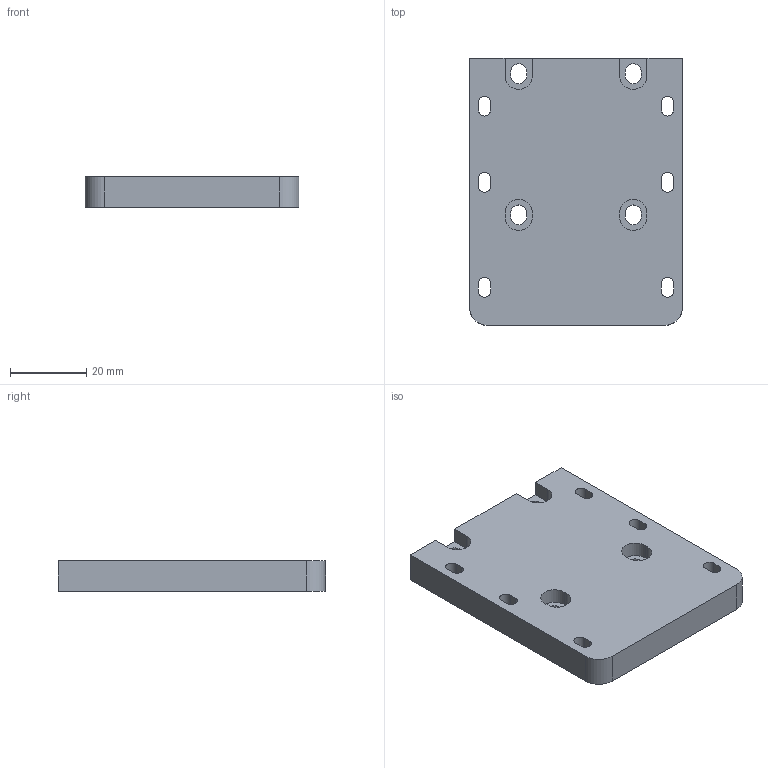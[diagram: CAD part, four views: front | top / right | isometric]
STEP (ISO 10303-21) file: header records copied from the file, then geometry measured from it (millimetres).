
FILE_DESCRIPTION(('FreeCAD Model'),'2;1');
FILE_NAME('Open CASCADE Shape Model','2024-11-16T20:06:46',(''),(''), 'Open CASCADE STEP processor 7.8','FreeCAD','Unknown');
FILE_SCHEMA(('AUTOMOTIVE_DESIGN { 1 0 10303 214 1 1 1 1 }'));
Length unit declared in the file: millimetre
Products named in the file (1): Z-BASE
Bounding box: 56 x 70 x 8 mm (x, y, z)
Volume: 29169.7 mm3; surface area: 10816.7 mm2
Topology: 1 solids, 1 shells, 96 faces, 258 edges, 172 vertices
Faces by surface type: plane 56, cylinder 40
Entity records: 6530 total; most frequent: CARTESIAN_POINT 1223, DIRECTION 1018, LINE 614, VECTOR 614, ORIENTED_EDGE 516, PCURVE 516, DEFINITIONAL_REPRESENTATION 516, EDGE_CURVE 258
